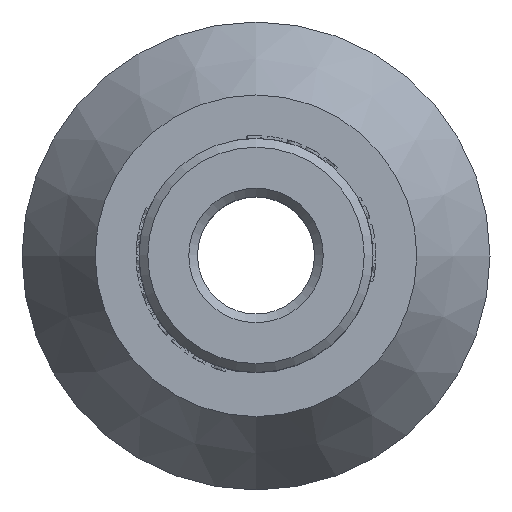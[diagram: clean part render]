
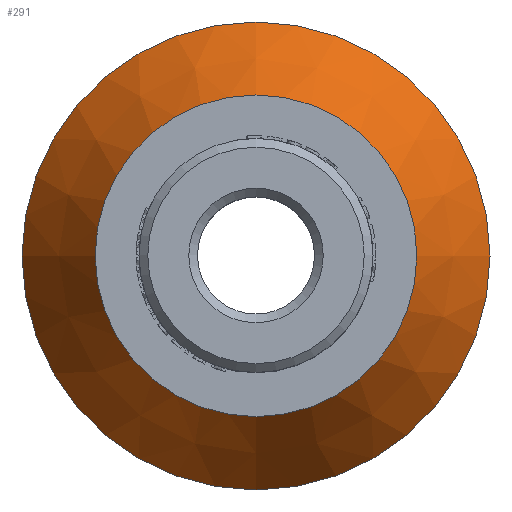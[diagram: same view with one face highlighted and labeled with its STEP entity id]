
A CAD part, top view. The second image highlights one B-rep face of the part: STEP entity #291.
In plain terms, the highlighted conical face has half-angle 32.005 degrees and reference radius 8 mm.
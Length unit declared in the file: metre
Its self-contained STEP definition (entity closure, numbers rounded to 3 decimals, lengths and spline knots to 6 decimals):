
#291 = ADVANCED_FACE( '', ( #768, #769 ), #770, .T. );
#768 = FACE_BOUND( '', #3740, .T. );
#769 = FACE_OUTER_BOUND( '', #3741, .T. );
#770 = CONICAL_SURFACE( '', #3742, 0.008, 0.559 );
#3740 = EDGE_LOOP( '', ( #5255 ) );
#3741 = EDGE_LOOP( '', ( #5256 ) );
#3742 = AXIS2_PLACEMENT_3D( '', #5257, #5258, #5259 );
#5255 = ORIENTED_EDGE( '', *, *, #5720, .F. );
#5256 = ORIENTED_EDGE( '', *, *, #5806, .T. );
#5257 = CARTESIAN_POINT( '', ( 0., 0., -0.0055 ) );
#5258 = DIRECTION( '', ( 0., 0., -1. ) );
#5259 = DIRECTION( '', ( -1., 0., 0. ) );
#5720 = EDGE_CURVE( '', #6585, #6585, #6586, .T. );
#5806 = EDGE_CURVE( '', #6715, #6715, #6716, .T. );
#6585 = VERTEX_POINT( '', #8984 );
#6586 = CIRCLE( '', #8985, 0.0055 );
#6715 = VERTEX_POINT( '', #9328 );
#6716 = CIRCLE( '', #9329, 0.008 );
#8984 = CARTESIAN_POINT( '', ( 0.0055, 0., -0.0015 ) );
#8985 = AXIS2_PLACEMENT_3D( '', #9840, #9841, #9842 );
#9328 = CARTESIAN_POINT( '', ( 0.008, 0., -0.0055 ) );
#9329 = AXIS2_PLACEMENT_3D( '', #9952, #9953, #9954 );
#9840 = CARTESIAN_POINT( '', ( 0., 0., -0.0015 ) );
#9841 = DIRECTION( '', ( 0., 0., 1. ) );
#9842 = DIRECTION( '', ( 1., 0., 0. ) );
#9952 = CARTESIAN_POINT( '', ( 0., 0., -0.0055 ) );
#9953 = DIRECTION( '', ( 0., 0., 1. ) );
#9954 = DIRECTION( '', ( 1., 0., 0. ) );
